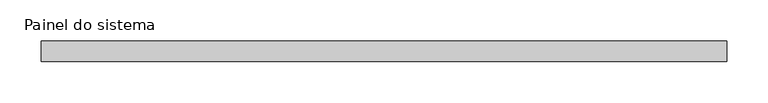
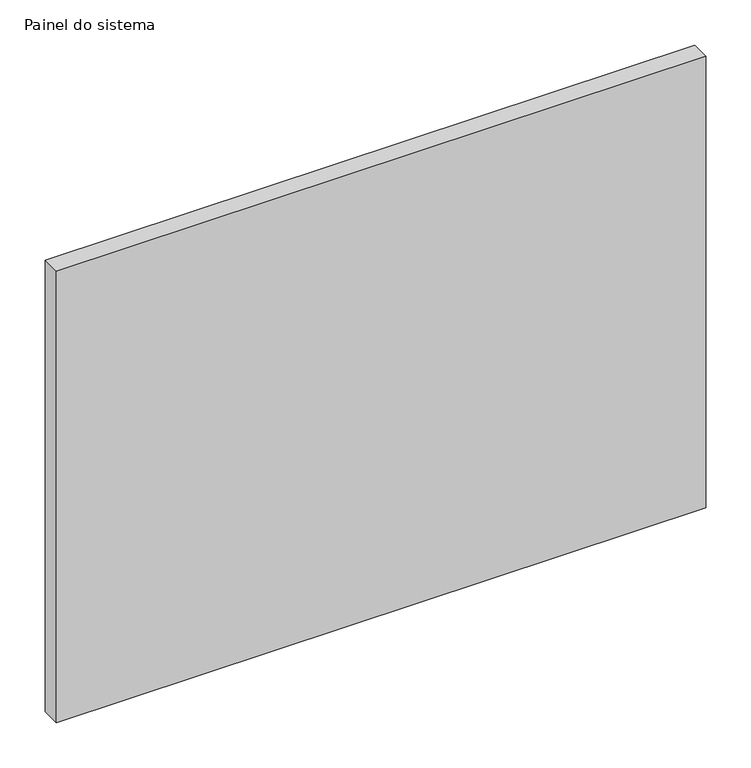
"""IFC4 building model written with IfcOpenShell, lengths in millimetres: plate geometry, Painel do sistema : Envidraçado."""

from ifc_helpers import new_model, si_unit, origin, origin_with_axes, place, context, project, spatial, polyline, outline, extrude, source, transform, mapped, element, save


def painel_do_sistema_c710039d(model_context):
    return source(origin(), model_context, "Body", "SweptSolid", [
        extrude(outline(polyline([(415.0, 24.5), (-415.0, 24.5), (-415.0, 49.5), (415.0, 49.5), (415.0, 24.5)])), origin_with_axes(), (0.0, 0.0, 1.0), 610.0),
    ])


if __name__ == "__main__":
    model = new_model("IFC4")
    model_context = context("Model", 3, world=origin())
    ifc_project = project(units=[si_unit("LENGTHUNIT", "METRE", prefix="MILLI")], contexts=[model_context])
    site = spatial("IfcSite", under=ifc_project)
    building = spatial("IfcBuilding", under=site)
    placement = place(None, origin())
    painel_do_sistema_shape = painel_do_sistema_c710039d(model_context)
    element("IfcPlate", 1, ObjectType="Painel do sistema : Envidraçado", at=placement, inside=building, context=model_context, shape_type="MappedRepresentation", body=[
        mapped(painel_do_sistema_shape, transform((0.0, 0.0, 0.0), x_axis=(1.0, 0.0, 0.0), y_axis=(0.0, 1.0, 0.0), z_axis=(0.0, 0.0, 1.0))),
    ])
    save(model, "model.ifc")
